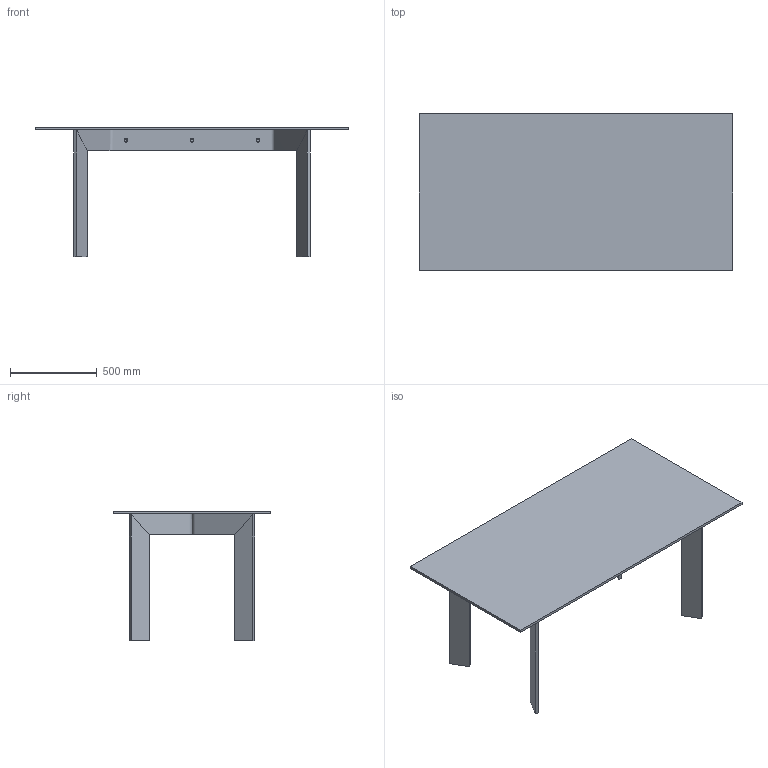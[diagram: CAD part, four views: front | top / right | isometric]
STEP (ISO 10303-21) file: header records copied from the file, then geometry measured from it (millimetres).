
FILE_DESCRIPTION(/* description */ (''),/* implementation_level */ '2;1');
FILE_NAME(/* name */ 'CR18 - Cross 180x90',/* time_stamp */ '2012-06-19T16:36:49+02:00',/* author */ (''),/* organization */ (''),/* preprocessor_version */ 'ST-DEVELOPER v10',/* originating_system */ '',/* authorisation */ '');
FILE_SCHEMA (('CONFIG_CONTROL_DESIGN'));
Length unit declared in the file: millimetre
Products named in the file (1): 1
Bounding box: 1800 x 900 x 745 mm (x, y, z)
Volume: 40328969.7 mm3; surface area: 5079757 mm2
Topology: 19 solids, 19 shells, 236 faces, 474 edges, 288 vertices
Faces by surface type: bspline 162, plane 74
Entity records: 6742 total; most frequent: CARTESIAN_POINT 3764, ORIENTED_EDGE 948, EDGE_CURVE 474, VERTEX_POINT 288, EDGE_LOOP 272, ADVANCED_FACE 236, FACE_OUTER_BOUND 236, B_SPLINE_CURVE_WITH_KNOTS 138
